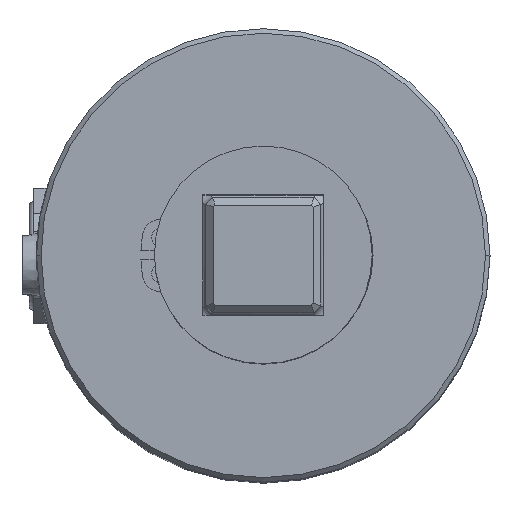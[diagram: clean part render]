
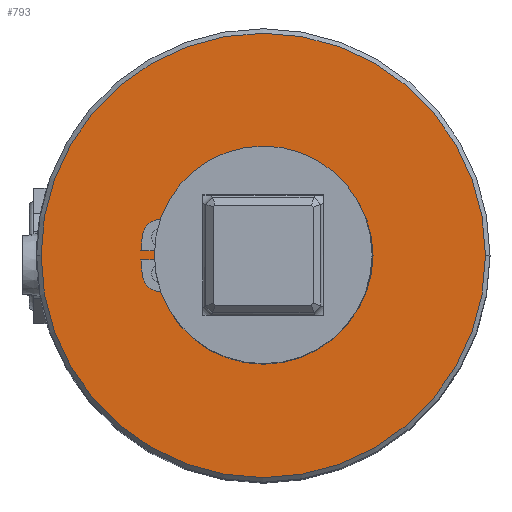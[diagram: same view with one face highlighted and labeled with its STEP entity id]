
A CAD part, top view. The second image highlights one B-rep face of the part: STEP entity #793.
In plain terms, the highlighted planar face has unit normal (0, 0, 1).
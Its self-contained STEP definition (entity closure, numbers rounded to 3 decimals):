
#793=ADVANCED_FACE('',(#1666,#1667),#1668,.T.);
#1666=FACE_OUTER_BOUND('',#2632,.T.);
#1667=FACE_BOUND('',#2633,.T.);
#1668=PLANE('',#2634);
#2632=EDGE_LOOP('',(#4807,#4808));
#2633=EDGE_LOOP('',(#4809,#4810,#4811,#4812,#4813,#4814,#4815,#4816,#4817,#4818,#4819,#4820,#4821));
#2634=AXIS2_PLACEMENT_3D('',#4822,#4823,#4824);
#4807=ORIENTED_EDGE('',*,*,#6421,.T.);
#4808=ORIENTED_EDGE('',*,*,#5946,.T.);
#4809=ORIENTED_EDGE('',*,*,#6388,.T.);
#4810=ORIENTED_EDGE('',*,*,#6010,.T.);
#4811=ORIENTED_EDGE('',*,*,#6386,.F.);
#4812=ORIENTED_EDGE('',*,*,#6383,.F.);
#4813=ORIENTED_EDGE('',*,*,#6380,.F.);
#4814=ORIENTED_EDGE('',*,*,#6377,.F.);
#4815=ORIENTED_EDGE('',*,*,#6374,.F.);
#4816=ORIENTED_EDGE('',*,*,#6019,.F.);
#4817=ORIENTED_EDGE('',*,*,#6015,.F.);
#4818=ORIENTED_EDGE('',*,*,#6372,.F.);
#4819=ORIENTED_EDGE('',*,*,#6369,.F.);
#4820=ORIENTED_EDGE('',*,*,#6366,.F.);
#4821=ORIENTED_EDGE('',*,*,#6362,.F.);
#4822=CARTESIAN_POINT('',(0.,0.,35.));
#4823=DIRECTION('',(0.0,0.0,1.0));
#4824=DIRECTION('',(1.0,-0.0,0.0));
#5946=EDGE_CURVE('',#7206,#7209,#7211,.T.);
#6010=EDGE_CURVE('',#7312,#7320,#7322,.T.);
#6015=EDGE_CURVE('',#7329,#7324,#7331,.T.);
#6019=EDGE_CURVE('',#7324,#7334,#7337,.T.);
#6362=EDGE_CURVE('',#7822,#7823,#7824,.T.);
#6366=EDGE_CURVE('',#7823,#7828,#7829,.T.);
#6369=EDGE_CURVE('',#7828,#7832,#7833,.T.);
#6372=EDGE_CURVE('',#7832,#7329,#7836,.T.);
#6374=EDGE_CURVE('',#7334,#7838,#7839,.T.);
#6377=EDGE_CURVE('',#7838,#7842,#7843,.T.);
#6380=EDGE_CURVE('',#7842,#7846,#7847,.T.);
#6383=EDGE_CURVE('',#7846,#7850,#7851,.T.);
#6386=EDGE_CURVE('',#7850,#7320,#7854,.T.);
#6388=EDGE_CURVE('',#7822,#7312,#7856,.T.);
#6421=EDGE_CURVE('',#7209,#7206,#7897,.T.);
#7206=VERTEX_POINT('',#9558);
#7209=VERTEX_POINT('',#9562);
#7211=CIRCLE('',#9565,24.5);
#7312=VERTEX_POINT('',#9732);
#7320=VERTEX_POINT('',#9742);
#7322=CIRCLE('',#9745,9.5);
#7324=VERTEX_POINT('',#9747);
#7329=VERTEX_POINT('',#9753);
#7331=CIRCLE('',#9756,11.45);
#7334=VERTEX_POINT('',#9759);
#7337=CIRCLE('',#9763,11.45);
#7822=VERTEX_POINT('',#10638);
#7823=VERTEX_POINT('',#10639);
#7824=LINE('',#10640,#10641);
#7828=VERTEX_POINT('',#10647);
#7829=CIRCLE('',#10648,13.496);
#7832=VERTEX_POINT('',#10652);
#7833=CIRCLE('',#10653,2.);
#7836=CIRCLE('',#10657,2.);
#7838=VERTEX_POINT('',#10659);
#7839=CIRCLE('',#10660,11.45);
#7842=VERTEX_POINT('',#10664);
#7843=CIRCLE('',#10665,2.);
#7846=VERTEX_POINT('',#10669);
#7847=CIRCLE('',#10670,2.);
#7850=VERTEX_POINT('',#10674);
#7851=CIRCLE('',#10675,13.496);
#7854=LINE('',#10679,#10680);
#7856=CIRCLE('',#10682,9.5);
#7897=CIRCLE('',#10733,24.5);
#9558=CARTESIAN_POINT('',(24.5,0.,35.));
#9562=CARTESIAN_POINT('',(-24.5,0.,35.));
#9565=AXIS2_PLACEMENT_3D('',#11722,#11723,#11724);
#9732=CARTESIAN_POINT('',(-9.5,0.,35.));
#9742=CARTESIAN_POINT('',(-9.487,0.5,35.));
#9745=AXIS2_PLACEMENT_3D('',#11836,#11837,#11838);
#9747=CARTESIAN_POINT('',(0.65,-11.45,35.));
#9753=CARTESIAN_POINT('',(-9.598,-5.107,35.));
#9756=AXIS2_PLACEMENT_3D('',#11844,#11845,#11846);
#9759=CARTESIAN_POINT('',(0.65,11.45,35.));
#9763=AXIS2_PLACEMENT_3D('',#11851,#11852,#11853);
#10638=CARTESIAN_POINT('',(-9.487,-0.5,35.));
#10639=CARTESIAN_POINT('',(-13.487,-0.5,35.));
#10640=CARTESIAN_POINT('',(-9.487,-0.5,35.));
#10641=VECTOR('',#12294,4.);
#10647=CARTESIAN_POINT('',(-13.29,-2.348,35.));
#10648=AXIS2_PLACEMENT_3D('',#12297,#12298,#12299);
#10652=CARTESIAN_POINT('',(-11.354,-4.,35.));
#10653=AXIS2_PLACEMENT_3D('',#12301,#12302,#12303);
#10657=AXIS2_PLACEMENT_3D('',#12305,#12306,#12307);
#10659=CARTESIAN_POINT('',(-9.598,5.107,35.));
#10660=AXIS2_PLACEMENT_3D('',#12308,#12309,#12310);
#10664=CARTESIAN_POINT('',(-11.354,4.,35.));
#10665=AXIS2_PLACEMENT_3D('',#12312,#12313,#12314);
#10669=CARTESIAN_POINT('',(-13.29,2.348,35.));
#10670=AXIS2_PLACEMENT_3D('',#12316,#12317,#12318);
#10674=CARTESIAN_POINT('',(-13.487,0.5,35.));
#10675=AXIS2_PLACEMENT_3D('',#12320,#12321,#12322);
#10679=CARTESIAN_POINT('',(-13.487,0.5,35.));
#10680=VECTOR('',#12324,4.0);
#10682=AXIS2_PLACEMENT_3D('',#12325,#12326,#12327);
#10733=AXIS2_PLACEMENT_3D('',#12362,#12363,#12364);
#11722=CARTESIAN_POINT('',(0.,0.,35.));
#11723=DIRECTION('',(0.0,0.0,1.0));
#11724=DIRECTION('',(1.0,0.0,0.0));
#11836=CARTESIAN_POINT('',(0.0,0.0,35.));
#11837=DIRECTION('',(0.0,0.0,-1.0));
#11838=DIRECTION('',(-1.0,0.0,0.0));
#11844=CARTESIAN_POINT('',(0.65,0.,35.));
#11845=DIRECTION('',(0.0,-0.0,1.0));
#11846=DIRECTION('',(0.0,1.0,0.0));
#11851=CARTESIAN_POINT('',(0.65,0.,35.));
#11852=DIRECTION('',(0.0,-0.0,1.0));
#11853=DIRECTION('',(0.0,1.0,0.0));
#12294=DIRECTION('',(-1.0,0.0,0.0));
#12297=CARTESIAN_POINT('',(0.,0.,35.));
#12298=DIRECTION('',(0.0,-0.0,1.0));
#12299=DIRECTION('',(0.0,1.0,0.0));
#12301=CARTESIAN_POINT('',(-11.321,-2.,35.));
#12302=DIRECTION('',(0.0,-0.0,1.0));
#12303=DIRECTION('',(0.0,1.0,0.0));
#12305=CARTESIAN_POINT('',(-11.388,-5.999,35.));
#12306=DIRECTION('',(0.0,0.0,-1.0));
#12307=DIRECTION('',(0.0,1.0,0.0));
#12308=CARTESIAN_POINT('',(0.65,0.,35.));
#12309=DIRECTION('',(0.0,-0.0,1.0));
#12310=DIRECTION('',(0.0,1.0,0.0));
#12312=CARTESIAN_POINT('',(-11.388,5.999,35.));
#12313=DIRECTION('',(0.0,0.0,-1.0));
#12314=DIRECTION('',(0.0,1.0,0.0));
#12316=CARTESIAN_POINT('',(-11.321,2.,35.));
#12317=DIRECTION('',(0.0,-0.0,1.0));
#12318=DIRECTION('',(0.0,1.0,0.0));
#12320=CARTESIAN_POINT('',(0.,0.,35.));
#12321=DIRECTION('',(0.0,-0.0,1.0));
#12322=DIRECTION('',(0.0,1.0,0.0));
#12324=DIRECTION('',(1.0,0.0,0.0));
#12325=CARTESIAN_POINT('',(0.0,0.0,35.));
#12326=DIRECTION('',(0.0,0.0,-1.0));
#12327=DIRECTION('',(-1.0,0.0,0.0));
#12362=CARTESIAN_POINT('',(0.,0.,35.));
#12363=DIRECTION('',(0.0,0.0,1.0));
#12364=DIRECTION('',(1.0,0.0,0.0));
